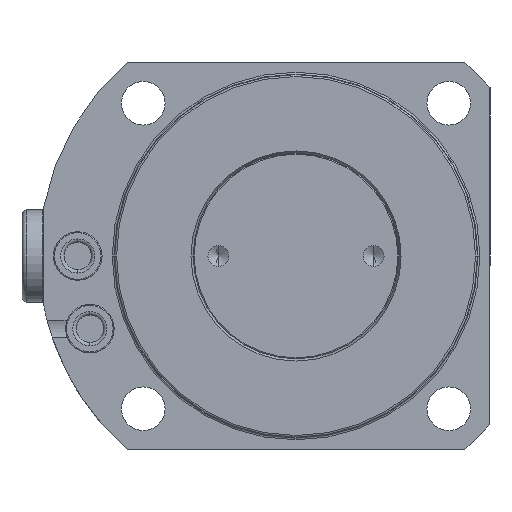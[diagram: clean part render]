
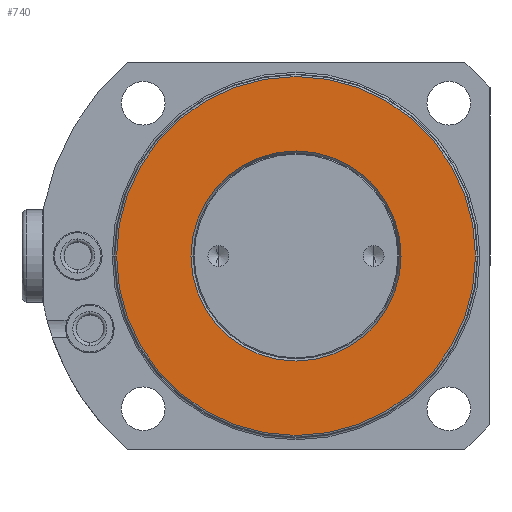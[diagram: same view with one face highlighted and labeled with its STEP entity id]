
A CAD part, front view. The second image highlights one B-rep face of the part: STEP entity #740.
In plain terms, the highlighted planar face has unit normal (0, -1, 0).
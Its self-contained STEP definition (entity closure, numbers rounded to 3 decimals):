
#368=PLANE('',#4081);
#423=FACE_BOUND('',#1235,.T.);
#424=FACE_BOUND('',#1236,.T.);
#740=ADVANCED_FACE('',(#423,#424),#368,.T.);
#1235=EDGE_LOOP('',(#2373,#2374));
#1236=EDGE_LOOP('',(#2375,#2376));
#2373=ORIENTED_EDGE('',*,*,#3277,.T.);
#2374=ORIENTED_EDGE('',*,*,#3336,.T.);
#2375=ORIENTED_EDGE('',*,*,#3272,.F.);
#2376=ORIENTED_EDGE('',*,*,#3337,.F.);
#2848=VERTEX_POINT('',#6534);
#2849=VERTEX_POINT('',#6535);
#2852=VERTEX_POINT('',#6543);
#2853=VERTEX_POINT('',#6545);
#3272=EDGE_CURVE('',#2848,#2849,#3590,.T.);
#3277=EDGE_CURVE('',#2853,#2852,#3594,.T.);
#3336=EDGE_CURVE('',#2852,#2853,#3623,.T.);
#3337=EDGE_CURVE('',#2849,#2848,#3624,.T.);
#3590=CIRCLE('',#4030,37.);
#3594=CIRCLE('',#4035,21.662);
#3623=CIRCLE('',#4078,21.662);
#3624=CIRCLE('',#4080,37.);
#4030=AXIS2_PLACEMENT_3D('',#6533,#5052,#5053);
#4035=AXIS2_PLACEMENT_3D('',#6544,#5063,#5064);
#4078=AXIS2_PLACEMENT_3D('',#6706,#5168,#5169);
#4080=AXIS2_PLACEMENT_3D('',#6708,#5172,#5173);
#4081=AXIS2_PLACEMENT_3D('',#6709,#5174,#5175);
#5052=DIRECTION('',(0.,1.,0.));
#5053=DIRECTION('',(-1.,0.,0.));
#5063=DIRECTION('',(0.,1.,0.));
#5064=DIRECTION('',(-1.,0.,0.));
#5168=DIRECTION('',(0.,1.,0.));
#5169=DIRECTION('',(-1.,0.,0.));
#5172=DIRECTION('',(0.,1.,0.));
#5173=DIRECTION('',(-1.,0.,0.));
#5174=DIRECTION('',(0.,-1.,0.));
#5175=DIRECTION('',(-1.,0.,0.));
#6533=CARTESIAN_POINT('',(0.,3.999,0.));
#6534=CARTESIAN_POINT('',(-37.,3.999,0.));
#6535=CARTESIAN_POINT('',(37.,3.999,0.));
#6543=CARTESIAN_POINT('',(-21.662,3.999,0.));
#6544=CARTESIAN_POINT('',(0.,3.999,0.));
#6545=CARTESIAN_POINT('',(21.662,3.999,0.));
#6706=CARTESIAN_POINT('',(0.,3.999,0.));
#6708=CARTESIAN_POINT('',(0.,3.999,0.));
#6709=CARTESIAN_POINT('',(0.,3.999,0.));
